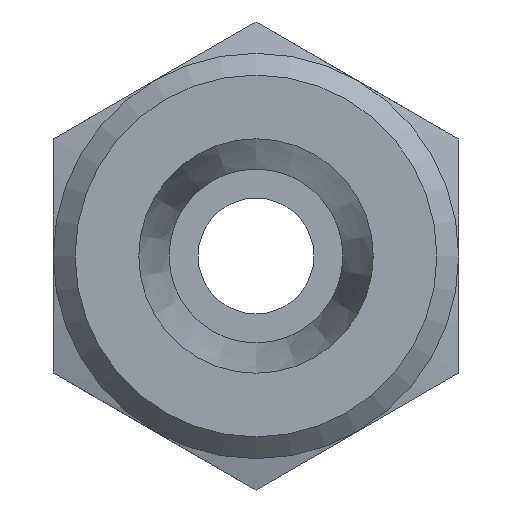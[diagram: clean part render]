
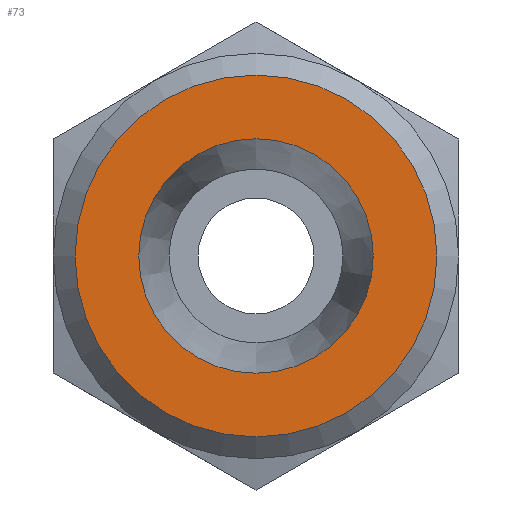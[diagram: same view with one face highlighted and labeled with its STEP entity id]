
A CAD part, left-side view. The second image highlights one B-rep face of the part: STEP entity #73.
In plain terms, the highlighted planar face has unit normal (-1, 0, 0).
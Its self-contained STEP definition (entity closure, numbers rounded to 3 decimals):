
#73 = ADVANCED_FACE( '', ( #169, #170 ), #171, .T. );
#169 = FACE_OUTER_BOUND( '', #294, .T. );
#170 = FACE_BOUND( '', #295, .T. );
#171 = PLANE( '', #296 );
#294 = EDGE_LOOP( '', ( #444 ) );
#295 = EDGE_LOOP( '', ( #445 ) );
#296 = AXIS2_PLACEMENT_3D( '', #446, #447, #448 );
#444 = ORIENTED_EDGE( '', *, *, #621, .T. );
#445 = ORIENTED_EDGE( '', *, *, #622, .F. );
#446 = CARTESIAN_POINT( '', ( -15., -7., -4.041 ) );
#447 = DIRECTION( '', ( -1., 0., 0. ) );
#448 = DIRECTION( '', ( 0., -1., 0. ) );
#621 = EDGE_CURVE( '', #718, #718, #719, .T. );
#622 = EDGE_CURVE( '', #720, #720, #721, .T. );
#718 = VERTEX_POINT( '', #889 );
#719 = CIRCLE( '', #890, 6.25 );
#720 = VERTEX_POINT( '', #891 );
#721 = CIRCLE( '', #892, 4.05 );
#889 = CARTESIAN_POINT( '', ( -15., -6.25, 0. ) );
#890 = AXIS2_PLACEMENT_3D( '', #980, #981, #982 );
#891 = CARTESIAN_POINT( '', ( -15., 0., 4.05 ) );
#892 = AXIS2_PLACEMENT_3D( '', #983, #984, #985 );
#980 = CARTESIAN_POINT( '', ( -15., 0., 0. ) );
#981 = DIRECTION( '', ( -1., 0., 0. ) );
#982 = DIRECTION( '', ( 0., -1., 0. ) );
#983 = CARTESIAN_POINT( '', ( -15., 0., 0. ) );
#984 = DIRECTION( '', ( -1., 0., 0. ) );
#985 = DIRECTION( '', ( 0., 0., 1. ) );
